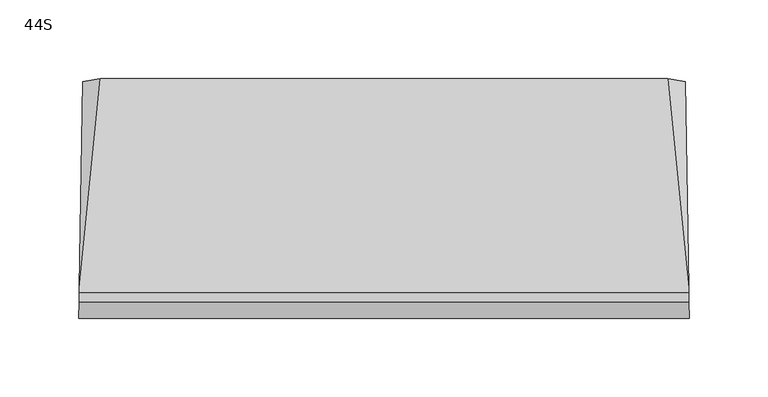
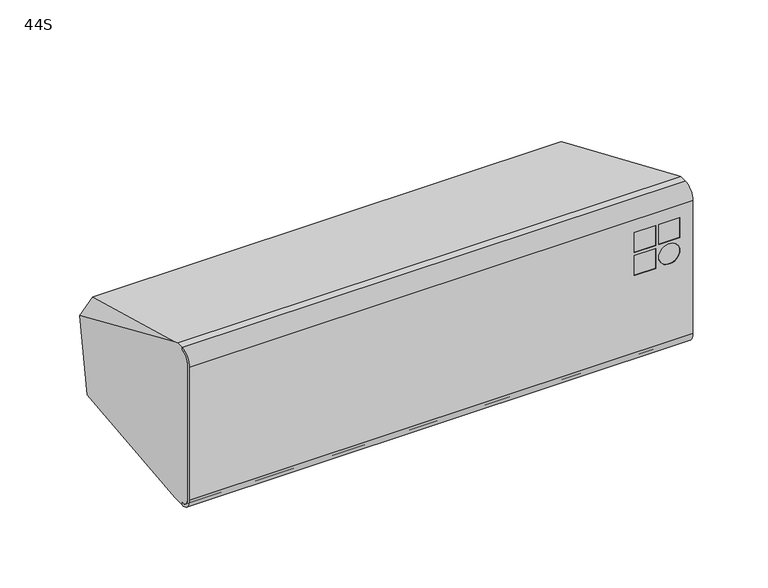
"""IFC4 building model written with IfcOpenShell, lengths in millimetres: proxy geometry, d&b xS-Series 44S Point Source : 44S."""

from ifc_helpers import new_model, si_unit, point, frame, frame_2d, origin, place, context, project, spatial, polyline, circle_curve, ellipse_curve, trimmed, segment, composite_curve, outline, extrude, source, transform, mapped, element, save
from ifc_brep_helpers import plane_surface, cylinder_surface, revolved_surface, advanced_brep


def proxy_44s_ee3669df(model_context):
    return source(origin(), model_context, "Body", "SolidModel", [
        advanced_brep(
        [(-193.4294708, -73.9650952, 54.0), (-193.4294708, -73.9650952, -54.078429), (-193.2924342, -66.0, -62.0435242), (-193.2924342, -66.0, -64.0), (-193.4644806, -76.0, -54.0), (-193.4644806, -76.0, 54.0), (-193.2918337, -65.9650952, 64.0349048), (-193.2918337, -65.9650952, 62.0), (193.4294708, -73.9650952, -54.078429), (193.4294708, -73.9650952, 54.0), (193.2918337, -65.9650952, 62.0), (193.2918337, -65.9650952, 64.0349048), (193.4644806, -76.0, 54.0), (193.4644806, -76.0, -54.0), (193.2924342, -66.0, -64.0), (193.2924342, -66.0, -62.0435242), (164.7978139, -73.9650952, 25.3333333), (148.4644806, -73.9650952, 25.3333333), (148.4644806, -73.9650952, 9.0), (164.7978139, -73.9650952, 9.0), (164.7978139, -73.9650952, 44.0), (148.4644806, -73.9650952, 44.0), (148.4644806, -73.9650952, 27.6666667), (164.7978139, -73.9650952, 27.6666667), (183.4644806, -73.9650952, 44.0), (167.1311473, -73.9650952, 44.0), (167.1311473, -73.9650952, 27.6666667), (183.4644806, -73.9650952, 27.6666667), (167.1311473, -73.9650952, 17.1666667), (183.4644806, -73.9650952, 17.1666667), (148.4644806, -76.0, 25.3333333), (164.7978139, -76.0, 25.3333333), (164.7978139, -76.0, 9.0), (148.4644806, -76.0, 9.0), (148.4644806, -76.0, 44.0), (164.7978139, -76.0, 44.0), (164.7978139, -76.0, 27.6666667), (148.4644806, -76.0, 27.6666667), (167.1311473, -76.0, 44.0), (183.4644806, -76.0, 44.0), (183.4644806, -76.0, 27.6666667), (167.1311473, -76.0, 27.6666667), (183.4644806, -76.0, 17.1666667), (167.1311473, -76.0, 17.1666667)],
        [
            (0, 1),
            (1, 2, ellipse_curve(frame((-193.2924342, -66.0, -54.078429), z_axis=(0.999852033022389, -0.017202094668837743, 0.0), x_axis=(0.01720209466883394, 0.999852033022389, 0.0)), 7.9662739, 7.9650952)),
            (2, 3),
            (3, 4, ellipse_curve(frame((-193.2924342, -66.0, -54.0), z_axis=(-0.999852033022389, 0.017202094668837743, 0.0), x_axis=(-0.01720209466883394, -0.999852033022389, 0.0)), 10.0014799, 10.0)),
            (4, 5),
            (5, 6, ellipse_curve(frame((-193.2918337, -65.9650952, 54.0), z_axis=(-0.999852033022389, 0.017202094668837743, 0.0), x_axis=(-0.01720209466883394, -0.999852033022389, 0.0)), 10.0363899, 10.0349048)),
            (6, 7),
            (7, 0, ellipse_curve(frame((-193.2918337, -65.9650952, 54.0), z_axis=(0.999852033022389, -0.017202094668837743, 0.0), x_axis=(0.01720209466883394, 0.999852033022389, 0.0)), 8.0011839, 8.0)),
            (8, 9),
            (9, 10, ellipse_curve(frame((193.2918337, -65.9650952, 54.0), z_axis=(-0.9998520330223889, -0.01720209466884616, 0.0), x_axis=(0.017202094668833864, -0.999852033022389, 0.0)), 8.0011839, 8.0)),
            (10, 11),
            (11, 12, ellipse_curve(frame((193.2918337, -65.9650952, 54.0), z_axis=(0.9998520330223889, 0.01720209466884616, 0.0), x_axis=(-0.017202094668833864, 0.999852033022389, 0.0)), 10.0363899, 10.0349048)),
            (12, 13),
            (13, 14, ellipse_curve(frame((193.2924342, -66.0, -54.0), z_axis=(0.9998520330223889, 0.01720209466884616, 0.0), x_axis=(-0.017202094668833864, 0.999852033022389, 0.0)), 10.0014799, 10.0)),
            (14, 15),
            (15, 8, ellipse_curve(frame((193.2924342, -66.0, -54.078429), z_axis=(-0.9998520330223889, -0.01720209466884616, 0.0), x_axis=(0.017202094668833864, -0.999852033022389, 0.0)), 7.9662739, 7.9650952)),
            (0, 9),
            (8, 1),
            (16, 17),
            (17, 18),
            (18, 19),
            (19, 16),
            (20, 21),
            (21, 22),
            (22, 23),
            (23, 20),
            (24, 25),
            (25, 26),
            (26, 27),
            (27, 24),
            (28, 29, circle_curve(frame((175.2978139, -73.9650952, 17.1666667), z_axis=(0.0, -1.0, 0.0), x_axis=(-1.0, 0.0, 0.0)), 8.1666667)),
            (29, 28, circle_curve(frame((175.2978139, -73.9650952, 17.1666667), z_axis=(0.0, -1.0, 0.0), x_axis=(-1.0, 0.0, 0.0)), 8.1666667)),
            (15, 2),
            (14, 3),
            (13, 4),
            (12, 5),
            (30, 31),
            (31, 32),
            (32, 33),
            (33, 30),
            (34, 35),
            (35, 36),
            (36, 37),
            (37, 34),
            (38, 39),
            (39, 40),
            (40, 41),
            (41, 38),
            (42, 43, circle_curve(frame((175.2978139, -76.0, 17.1666667), z_axis=(0.0, 1.0, 0.0), x_axis=(-1.0, 0.0, 0.0)), 8.1666667)),
            (43, 42, circle_curve(frame((175.2978139, -76.0, 17.1666667), z_axis=(0.0, 1.0, 0.0), x_axis=(-1.0, 0.0, 0.0)), 8.1666667)),
            (11, 6),
            (10, 7),
            (16, 31),
            (30, 17),
            (19, 32),
            (18, 33),
            (20, 35),
            (34, 21),
            (23, 36),
            (22, 37),
            (24, 39),
            (38, 25),
            (27, 40),
            (26, 41),
            (28, 43),
            (42, 29),
        ],
        [
            plane_surface(frame((-193.8309972, -97.3033587, 100.0), z_axis=(-0.999852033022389, 0.017202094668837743, 0.0), x_axis=(0.0, 0.0, -1.0))),
            plane_surface(frame((190.7119283, 83.9889493, 100.0), z_axis=(0.9998520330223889, 0.01720209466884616, 0.0), x_axis=(0.0, 0.0, -1.0))),
            plane_surface(frame((-202.5, -73.9650952, 54.0), z_axis=(0.0, 1.0, 0.0), x_axis=(1.0, 0.0, 0.0))),
            revolved_surface(polyline([(193.4294708, -66.0, -46.1133338), (-193.4294708, -66.0, -46.1133338)]), (202.5, -66.0, -54.078429), (1.0, 0.0, 0.0)),
            plane_surface(frame((-202.5, -66.0, -62.0435242), z_axis=(0.0, 1.0, 0.0), x_axis=(1.0, 0.0, 0.0))),
            cylinder_surface(frame((202.5, -66.0, -54.0), z_axis=(-1.0, 0.0, 0.0), x_axis=(0.0, 0.0, 1.0)), 10.0),
            plane_surface(frame((-202.5, -76.0, -54.0), z_axis=(0.0, -1.0, 0.0), x_axis=(1.0, 0.0, 0.0))),
            cylinder_surface(frame((202.5, -65.9650952, 54.0), z_axis=(-1.0, 0.0, 0.0), x_axis=(0.0, 0.0, 1.0)), 10.0349048),
            plane_surface(frame((-202.5, -65.9650952, 64.0349048), z_axis=(0.0, 1.0, 0.0), x_axis=(1.0, 0.0, 0.0))),
            revolved_surface(polyline([(193.42947082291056, -65.9650952, 62.0), (-193.42947082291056, -65.9650952, 62.0)]), (202.5, -65.9650952, 54.0), (1.0, 0.0, 0.0)),
            plane_surface(frame((164.7978139, -76.0, 25.3333333), z_axis=(0.0, 0.0, -1.0), x_axis=(0.0, 1.0, 0.0))),
            plane_surface(frame((164.7978139, -76.0, 9.0), z_axis=(-1.0, 0.0, 0.0), x_axis=(0.0, 1.0, 0.0))),
            plane_surface(frame((148.4644806, -76.0, 9.0), z_axis=(0.0, 0.0, 1.0), x_axis=(0.0, 1.0, 0.0))),
            plane_surface(frame((148.4644806, -76.0, 25.3333333), z_axis=(1.0, 0.0, 0.0), x_axis=(0.0, 1.0, 0.0))),
            plane_surface(frame((164.7978139, -76.0, 44.0), z_axis=(0.0, 0.0, -1.0), x_axis=(0.0, 1.0, 0.0))),
            plane_surface(frame((164.7978139, -76.0, 27.6666667), z_axis=(-1.0, 0.0, 0.0), x_axis=(0.0, 1.0, 0.0))),
            plane_surface(frame((148.4644806, -76.0, 27.6666667), z_axis=(0.0, 0.0, 1.0), x_axis=(0.0, 1.0, 0.0))),
            plane_surface(frame((148.4644806, -76.0, 44.0), z_axis=(1.0, 0.0, 0.0), x_axis=(0.0, 1.0, 0.0))),
            plane_surface(frame((183.4644806, -76.0, 44.0), z_axis=(0.0, 0.0, -1.0), x_axis=(0.0, 1.0, 0.0))),
            plane_surface(frame((183.4644806, -76.0, 27.6666667), z_axis=(-1.0, 0.0, 0.0), x_axis=(0.0, 1.0, 0.0))),
            plane_surface(frame((167.1311473, -76.0, 27.6666667), z_axis=(0.0, 0.0, 1.0), x_axis=(0.0, 1.0, 0.0))),
            plane_surface(frame((167.1311473, -76.0, 44.0), z_axis=(1.0, 0.0, 0.0), x_axis=(0.0, 1.0, 0.0))),
            revolved_surface(polyline([(167.1311472, -76.0, 17.1666667), (167.1311472, -73.9650952, 17.1666667)]), (175.2978139, -15.7477083, 17.1666667), (0.0, -1.0, 0.0)),
        ],
        [
            (0, [[1, 2, 3, 4, 5, 6, 7, 8]]),
            (1, [[9, 10, 11, 12, 13, 14, 15, 16]]),
            (2, [[17, -9, 18, -1], [19, 20, 21, 22], [23, 24, 25, 26], [27, 28, 29, 30], [31, 32]]),
            (3, [[-18, -16, 33, -2]]),
            (4, [[-33, -15, 34, -3]]),
            (5, [[-34, -14, 35, -4]]),
            (6, [[-35, -13, 36, -5], [37, 38, 39, 40], [41, 42, 43, 44], [45, 46, 47, 48], [49, 50]]),
            (7, [[-36, -12, 51, -6]]),
            (8, [[-51, -11, 52, -7]]),
            (9, [[-17, -8, -52, -10]]),
            (10, [[53, -37, 54, -19]]),
            (11, [[-53, -22, 55, -38]]),
            (12, [[-55, -21, 56, -39]]),
            (13, [[-56, -20, -54, -40]]),
            (14, [[57, -41, 58, -23]]),
            (15, [[-57, -26, 59, -42]]),
            (16, [[-59, -25, 60, -43]]),
            (17, [[-60, -24, -58, -44]]),
            (18, [[61, -45, 62, -27]]),
            (19, [[-61, -30, 63, -46]]),
            (20, [[-63, -29, 64, -47]]),
            (21, [[-64, -28, -62, -48]]),
            (22, [[65, -49, 66, -31]]),
            (22, [[-65, -32, -66, -50]]),
        ],
    ),
        extrude(outline(polyline([(164.7978139, -76.0), (148.4644806, -76.0), (148.4644806, -71.0), (164.7978139, -71.0), (164.7978139, -76.0)])), frame((0.0, 0.0, 9.0), z_axis=(0.0, 0.0, 1.0), x_axis=(1.0, 0.0, 0.0)), (0.0, 0.0, 1.0), 16.3333333),
        extrude(outline(polyline([(164.7978139, -76.0), (148.4644806, -76.0), (148.4644806, -71.0), (164.7978139, -71.0), (164.7978139, -76.0)])), frame((0.0, 0.0, 27.6666667), z_axis=(0.0, 0.0, 1.0), x_axis=(1.0, 0.0, 0.0)), (0.0, 0.0, 1.0), 16.3333333),
        extrude(outline(polyline([(183.4644806, -76.0), (167.1311473, -76.0), (167.1311473, -71.0), (183.4644806, -71.0), (183.4644806, -76.0)])), frame((0.0, 0.0, 27.6666667), z_axis=(0.0, 0.0, 1.0), x_axis=(1.0, 0.0, 0.0)), (0.0, 0.0, 1.0), 16.3333333),
        extrude(outline(composite_curve([segment(trimmed(circle_curve(frame_2d((17.1666667, 175.2978139)), 8.1666667), [point((17.1666667, 183.4644806))], [point((17.1666667, 167.1311473))], False, "CARTESIAN"), True, "CONTINUOUS"), segment(trimmed(circle_curve(frame_2d((17.1666667, 175.2978139)), 8.1666667), [point((17.1666667, 167.1311473))], [point((17.1666667, 183.4644806))], False, "CARTESIAN"), True, "CONTINUOUS")], self_intersect=False)), frame((0.0, -76.0, 0.0), z_axis=(0.0, 1.0, 0.0), x_axis=(0.0, 0.0, 1.0)), (0.0, 0.0, 1.0), 5.0),
        advanced_brep(
        [(-193.2924342, -66.0, -64.0), (-193.2924342, -66.0, -62.0435242), (-193.4294708, -73.9650952, -54.078429), (-193.4294708, -73.9650952, 54.0), (-193.2918337, -65.9650952, 62.0), (-193.2918337, -65.9650952, 64.0), (-193.1898069, -60.0349048, 64.0), (-193.132384, -56.6972655, 62.7855103), (-190.8800877, 74.2148737, 4.3760941), (-191.0574064, 63.9084293, -54.074657), (-193.132384, -56.6972655, -64.0), (193.2924342, -66.0, -62.0435242), (193.2924342, -66.0, -64.0), (193.132384, -56.6972655, -64.0), (191.0574064, 63.9084293, -54.074657), (190.8800877, 74.2148737, 4.3760941), (193.132384, -56.6972655, 62.7855103), (193.1898069, -60.0349048, 64.0), (193.2918337, -65.9650952, 64.0), (193.2918337, -65.9650952, 62.0), (193.4294708, -73.9650952, 54.0), (193.4294708, -73.9650952, -54.078429), (-181.3061997, 62.1583235, -64.0), (181.3061997, 62.1583235, -64.0), (179.9289467, 76.0, 14.5000481), (-179.9289467, 76.0, 14.5000481), (-138.5, 71.3365881, -11.9474751), (-138.5, 66.8217355, -37.5524767), (-128.5, 65.0852537, -47.4005542), (-51.5, 65.0852537, -47.4005542), (-41.5, 66.8217355, -37.5524767), (-41.5, 71.3365881, -11.9474751), (-51.5, 73.0730698, -2.0993976), (-128.5, 73.0730698, -2.0993976), (-138.5, 66.4125493, -11.0792343), (-128.5, 68.1490311, -1.2311567), (-51.5, 68.1490311, -1.2311567), (-41.5, 66.4125493, -11.0792343), (-41.5, 61.8976967, -36.6842358), (-51.5, 60.1612149, -46.5323134), (-128.5, 60.1612149, -46.5323134), (-138.5, 61.8976967, -36.6842358)],
        [
            (0, 1),
            (1, 2, ellipse_curve(frame((-193.2924342, -66.0, -54.078429), z_axis=(-0.999852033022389, 0.017202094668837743, 0.0), x_axis=(-0.01720209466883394, -0.999852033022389, 0.0)), 7.9662739, 7.9650952)),
            (2, 3),
            (3, 4, ellipse_curve(frame((-193.2918337, -65.9650952, 54.0), z_axis=(-0.999852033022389, 0.017202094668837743, 0.0), x_axis=(-0.01720209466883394, -0.999852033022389, 0.0)), 8.0011839, 8.0)),
            (4, 5),
            (5, 6),
            (6, 7),
            (7, 8),
            (8, 9),
            (9, 10),
            (10, 0),
            (11, 12),
            (12, 13),
            (13, 14),
            (14, 15),
            (15, 16),
            (16, 17),
            (17, 18),
            (18, 19),
            (19, 20, ellipse_curve(frame((193.2918337, -65.9650952, 54.0), z_axis=(0.9998520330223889, 0.01720209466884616, 0.0), x_axis=(-0.017202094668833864, 0.999852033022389, 0.0)), 8.0011839, 8.0)),
            (20, 21),
            (21, 11, ellipse_curve(frame((193.2924342, -66.0, -54.078429), z_axis=(0.9998520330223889, 0.01720209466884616, 0.0), x_axis=(-0.017202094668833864, 0.999852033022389, 0.0)), 7.9662739, 7.9650952)),
            (0, 12),
            (11, 1),
            (21, 2),
            (20, 3),
            (19, 4),
            (18, 5),
            (17, 6),
            (10, 22),
            (22, 23),
            (23, 13),
            (16, 24),
            (24, 25),
            (25, 7),
            (9, 22),
            (23, 14),
            (15, 24),
            (25, 8),
            (26, 27),
            (27, 28, circle_curve(frame((-128.5, 66.8217355, -37.5524767), z_axis=(0.0, -0.9848077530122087, 0.17364817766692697), x_axis=(0.0, 0.17364817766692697, 0.9848077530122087)), 10.0)),
            (28, 29),
            (29, 30, circle_curve(frame((-51.5, 66.8217355, -37.5524767), z_axis=(0.0, -0.9848077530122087, 0.17364817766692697), x_axis=(0.0, 0.17364817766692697, 0.9848077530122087)), 10.0)),
            (30, 31),
            (31, 32, circle_curve(frame((-51.5, 71.3365881, -11.9474751), z_axis=(0.0, -0.9848077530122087, 0.17364817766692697), x_axis=(0.0, 0.17364817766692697, 0.9848077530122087)), 10.0)),
            (32, 33),
            (33, 26, circle_curve(frame((-128.5, 71.3365881, -11.9474751), z_axis=(0.0, -0.9848077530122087, 0.17364817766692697), x_axis=(0.0, 0.17364817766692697, 0.9848077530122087)), 10.0)),
            (34, 35, circle_curve(frame((-128.5, 66.4125493, -11.0792343), z_axis=(0.0, 0.9848077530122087, -0.17364817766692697), x_axis=(0.0, 0.17364817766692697, 0.9848077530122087)), 10.0)),
            (35, 36),
            (36, 37, circle_curve(frame((-51.5, 66.4125493, -11.0792343), z_axis=(0.0, 0.9848077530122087, -0.17364817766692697), x_axis=(0.0, 0.17364817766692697, 0.9848077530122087)), 10.0)),
            (37, 38),
            (38, 39, circle_curve(frame((-51.5, 61.8976967, -36.6842358), z_axis=(0.0, 0.9848077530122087, -0.17364817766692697), x_axis=(0.0, 0.17364817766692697, 0.9848077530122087)), 10.0)),
            (39, 40),
            (40, 41, circle_curve(frame((-128.5, 61.8976967, -36.6842358), z_axis=(0.0, 0.9848077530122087, -0.17364817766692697), x_axis=(0.0, 0.17364817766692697, 0.9848077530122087)), 10.0)),
            (41, 34),
            (41, 27),
            (26, 34),
            (40, 28),
            (39, 29),
            (38, 30),
            (37, 31),
            (36, 32),
            (35, 33),
        ],
        [
            plane_surface(frame((-193.8309972, -97.3033587, 100.0), z_axis=(-0.999852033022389, 0.017202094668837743, 0.0), x_axis=(0.0, 0.0, -1.0))),
            plane_surface(frame((190.7119283, 83.9889493, 100.0), z_axis=(0.9998520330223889, 0.01720209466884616, 0.0), x_axis=(0.0, 0.0, -1.0))),
            plane_surface(frame((-207.1452552, -66.0, -64.0), z_axis=(0.0, -1.0, 0.0), x_axis=(1.0, 0.0, 0.0))),
            cylinder_surface(frame((207.1452552, -66.0, -54.078429), z_axis=(-1.0, 0.0, 0.0), x_axis=(0.0, 0.0, -1.0)), 7.9650952),
            plane_surface(frame((-207.1452552, -73.9650952, -54.078429), z_axis=(0.0, -1.0, 0.0), x_axis=(1.0, 0.0, 0.0))),
            cylinder_surface(frame((207.1452552, -65.9650952, 54.0), z_axis=(-1.0, 0.0, 0.0), x_axis=(0.0, 0.0, -1.0)), 8.0),
            plane_surface(frame((-207.1452552, -65.9650952, 62.0), z_axis=(0.0, -1.0, 0.0), x_axis=(1.0, 0.0, 0.0))),
            plane_surface(frame((-207.1452552, -65.9650952, 64.0), z_axis=(0.0, 0.0, 1.0), x_axis=(1.0, 0.0, 0.0))),
            plane_surface(frame((-207.1452552, -60.0349048, -64.0), z_axis=(0.0, 0.0, -1.0), x_axis=(1.0, 0.0, 0.0))),
            plane_surface(frame((0.0, 76.0, 14.5000481), z_axis=(0.0, 0.34194264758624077, 0.939720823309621), x_axis=(-1.0, 0.0, 0.0))),
            plane_surface(frame((-186.6967137, 76.0, -57.232233), z_axis=(-0.7053631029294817, 0.07018394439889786, -0.7053631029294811), x_axis=(0.7071067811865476, 0.0, -0.7071067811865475))),
            plane_surface(frame((186.6967137, 76.0, -57.232233), z_axis=(0.7053631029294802, 0.07018394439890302, -0.7053631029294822), x_axis=(0.7071067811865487, 0.0, 0.7071067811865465))),
            plane_surface(frame((186.6967137, 76.0, 7.7322812), z_axis=(0.6719558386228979, 0.31136907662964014, 0.6719558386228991), x_axis=(-0.7071067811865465, 0.0, 0.7071067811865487))),
            plane_surface(frame((-186.6967137, 76.0, 7.7322812), z_axis=(-0.6719558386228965, 0.3113690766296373, 0.6719558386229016), x_axis=(-0.7071067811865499, 0.0, -0.7071067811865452))),
            plane_surface(frame((-250.0, 59.1151772, -81.2585403), z_axis=(0.0, 0.9848077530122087, -0.17364817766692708), x_axis=(1.0, 0.0, 0.0))),
            plane_surface(frame((-138.5, 57.2342848, -63.1317591), z_axis=(0.0, 0.9848077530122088, -0.173648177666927), x_axis=(0.0, -0.173648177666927, -0.9848077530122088))),
            plane_surface(frame((-138.5, 66.4125493, -11.0792343), z_axis=(1.0, 0.0, 0.0), x_axis=(0.0, 0.9848077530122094, -0.1736481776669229))),
            revolved_surface(polyline([(-128.5, 63.63417846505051, -26.836158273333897), (-128.5, 68.55821727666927, -27.704399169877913)]), (-128.5, 66.8217355, -37.5524767), (0.0, -0.9848077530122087, 0.17364817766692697)),
            plane_surface(frame((-128.5, 60.1612149, -46.5323134), z_axis=(0.0, 0.1736481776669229, 0.9848077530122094), x_axis=(0.0, 0.9848077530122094, -0.1736481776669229))),
            revolved_surface(polyline([(-51.5, 63.63417846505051, -26.836158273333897), (-51.5, 68.55821727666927, -27.704399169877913)]), (-51.5, 66.8217355, -37.5524767), (0.0, -0.9848077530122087, 0.17364817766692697)),
            plane_surface(frame((-41.5, 61.8976967, -36.6842358), z_axis=(-1.0, 0.0, 0.0), x_axis=(0.0, 0.9848077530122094, -0.1736481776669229))),
            revolved_surface(polyline([(-51.5, 68.1490310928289, -1.2311566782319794), (-51.5, 73.07306987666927, -2.0993975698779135)]), (-51.5, 71.3365881, -11.9474751), (0.0, -0.9848077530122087, 0.17364817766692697)),
            plane_surface(frame((-51.5, 68.1490311, -1.2311567), z_axis=(0.0, -0.1736481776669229, -0.9848077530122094), x_axis=(0.0, 0.9848077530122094, -0.1736481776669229))),
            revolved_surface(polyline([(-128.5, 68.1490310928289, -1.2311566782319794), (-128.5, 73.07306987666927, -2.0993975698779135)]), (-128.5, 71.3365881, -11.9474751), (0.0, -0.9848077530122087, 0.17364817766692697)),
        ],
        [
            (0, [[1, 2, 3, 4, 5, 6, 7, 8, 9, 10, 11]]),
            (1, [[12, 13, 14, 15, 16, 17, 18, 19, 20, 21, 22]]),
            (2, [[23, -12, 24, -1]]),
            (3, [[-24, -22, 25, -2]]),
            (4, [[-25, -21, 26, -3]]),
            (5, [[-26, -20, 27, -4]]),
            (6, [[-27, -19, 28, -5]]),
            (7, [[-28, -18, 29, -6]]),
            (8, [[-23, -11, 30, 31, 32, -13]]),
            (9, [[-29, -17, 33, 34, 35, -7]]),
            (10, [[-30, -10, 36]]),
            (11, [[-32, 37, -14]]),
            (12, [[-33, -16, 38]]),
            (13, [[-35, 39, -8]]),
            (14, [[-31, -36, -9, -39, -34, -38, -15, -37], [40, 41, 42, 43, 44, 45, 46, 47]]),
            (15, [[48, 49, 50, 51, 52, 53, 54, 55]]),
            (16, [[-55, 56, -40, 57]]),
            (17, [[-54, 58, -41, -56]]),
            (18, [[-53, 59, -42, -58]]),
            (19, [[-52, 60, -43, -59]]),
            (20, [[-51, 61, -44, -60]]),
            (21, [[-50, 62, -45, -61]]),
            (22, [[-49, 63, -46, -62]]),
            (23, [[-48, -57, -47, -63]]),
        ],
    ),
    ])


if __name__ == "__main__":
    model = new_model("IFC4")
    model_context = context("Model", 3, world=origin())
    ifc_project = project(units=[si_unit("LENGTHUNIT", "METRE", prefix="MILLI")], contexts=[model_context])
    site = spatial("IfcSite", under=ifc_project)
    building = spatial("IfcBuilding", under=site)
    placement = place(None, origin())
    proxy_44s_shape = proxy_44s_ee3669df(model_context)
    element("IfcBuildingElementProxy", 1, Name="d&b xS-Series 44S Point Source : 44S", ObjectType="d&b xS-Series 44S Point Source : 44S", at=placement, inside=building, context=model_context, shape_type="MappedRepresentation", body=[
        mapped(proxy_44s_shape, transform((0.0, 0.0, 0.0), x_axis=(1.0, 0.0, 0.0), y_axis=(0.0, 1.0, 0.0), z_axis=(0.0, 0.0, 1.0))),
    ])
    save(model, "model.ifc")
